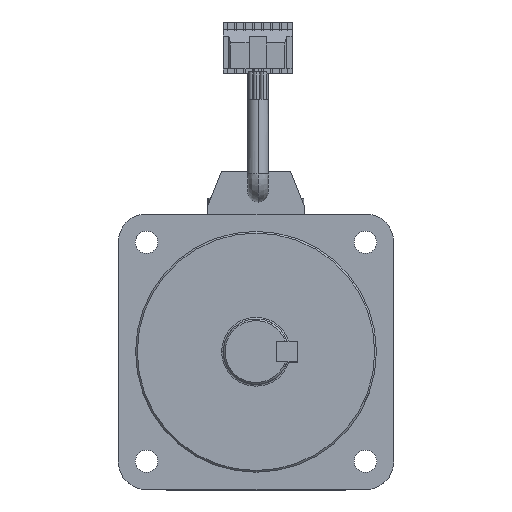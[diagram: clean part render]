
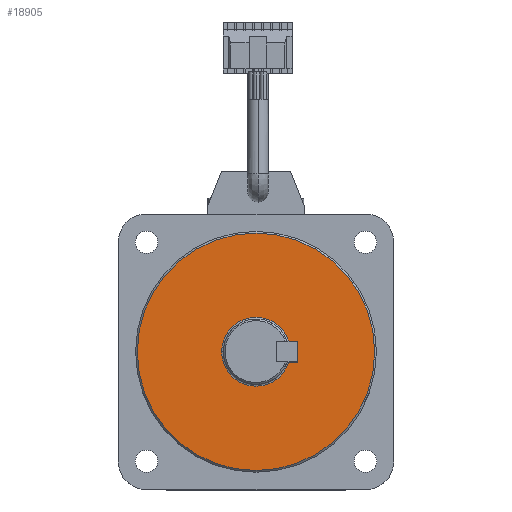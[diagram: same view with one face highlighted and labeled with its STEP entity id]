
A CAD part, top view. The second image highlights one B-rep face of the part: STEP entity #18905.
In plain terms, the highlighted planar face has unit normal (0, 0, 1).
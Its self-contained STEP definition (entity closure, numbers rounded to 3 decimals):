
#80 = VERTEX_POINT ( 'NONE', #19557 ) ;
#1022 = DIRECTION ( 'NONE',  ( 0., 0., 1. ) ) ;
#1073 = CIRCLE ( 'NONE', #8516, 34.5 ) ;
#1224 = DIRECTION ( 'NONE',  ( 1., 0., 0. ) ) ;
#1530 = CIRCLE ( 'NONE', #17351, 10. ) ;
#1547 = CARTESIAN_POINT ( 'NONE',  ( 40., 40., 13.3 ) ) ;
#3037 = VERTEX_POINT ( 'NONE', #18053 ) ;
#3228 = DIRECTION ( 'NONE',  ( 1., 0., 0. ) ) ;
#3656 = EDGE_CURVE ( 'NONE', #80, #17953, #7883, .T. ) ;
#3920 = ORIENTED_EDGE ( 'NONE', *, *, #21394, .F. ) ;
#3943 = AXIS2_PLACEMENT_3D ( 'NONE', #6843, #18524, #8505 ) ;
#4457 = ORIENTED_EDGE ( 'NONE', *, *, #20553, .T. ) ;
#6843 = CARTESIAN_POINT ( 'NONE',  ( 40., 40., 13.3 ) ) ;
#7124 = CARTESIAN_POINT ( 'NONE',  ( 5.5, 40., 13.3 ) ) ;
#7858 = CARTESIAN_POINT ( 'NONE',  ( 40., 40., 13.3 ) ) ;
#7883 = CIRCLE ( 'NONE', #3943, 10. ) ;
#8335 = CARTESIAN_POINT ( 'NONE',  ( 40., 40., 13.3 ) ) ;
#8505 = DIRECTION ( 'NONE',  ( 1., 0., 0. ) ) ;
#8516 = AXIS2_PLACEMENT_3D ( 'NONE', #11020, #1022, #12708 ) ;
#10010 = DIRECTION ( 'NONE',  ( 1., 0., 0. ) ) ;
#10875 = ORIENTED_EDGE ( 'NONE', *, *, #3656, .F. ) ;
#11020 = CARTESIAN_POINT ( 'NONE',  ( 40., 40., 13.3 ) ) ;
#11202 = VERTEX_POINT ( 'NONE', #7124 ) ;
#11224 = DIRECTION ( 'NONE',  ( 0., 0., 1. ) ) ;
#12708 = DIRECTION ( 'NONE',  ( 1., 0., 0. ) ) ;
#13258 = DIRECTION ( 'NONE',  ( 0., 0., 1. ) ) ;
#13687 = AXIS2_PLACEMENT_3D ( 'NONE', #7858, #11224, #1224 ) ;
#15144 = AXIS2_PLACEMENT_3D ( 'NONE', #1547, #13258, #3228 ) ;
#16127 = ORIENTED_EDGE ( 'NONE', *, *, #21353, .T. ) ;
#16792 = PLANE ( 'NONE',  #13687 ) ;
#17149 = EDGE_LOOP ( 'NONE', ( #16127, #4457 ) ) ;
#17301 = FACE_OUTER_BOUND ( 'NONE', #17149, .T. ) ;
#17351 = AXIS2_PLACEMENT_3D ( 'NONE', #8335, #20044, #10010 ) ;
#17953 = VERTEX_POINT ( 'NONE', #19153 ) ;
#18053 = CARTESIAN_POINT ( 'NONE',  ( 74.5, 40., 13.3 ) ) ;
#18524 = DIRECTION ( 'NONE',  ( 0., 0., 1. ) ) ;
#18905 = ADVANCED_FACE ( 'NONE', ( #17301, #21210 ), #16792, .T. ) ;
#19153 = CARTESIAN_POINT ( 'NONE',  ( 30., 40., 13.3 ) ) ;
#19557 = CARTESIAN_POINT ( 'NONE',  ( 50., 40., 13.3 ) ) ;
#19835 = CIRCLE ( 'NONE', #15144, 34.5 ) ;
#20044 = DIRECTION ( 'NONE',  ( 0., 0., 1. ) ) ;
#20550 = EDGE_LOOP ( 'NONE', ( #3920, #10875 ) ) ;
#20553 = EDGE_CURVE ( 'NONE', #3037, #11202, #1073, .T. ) ;
#21210 = FACE_BOUND ( 'NONE', #20550, .T. ) ;
#21353 = EDGE_CURVE ( 'NONE', #11202, #3037, #19835, .T. ) ;
#21394 = EDGE_CURVE ( 'NONE', #17953, #80, #1530, .T. ) ;
